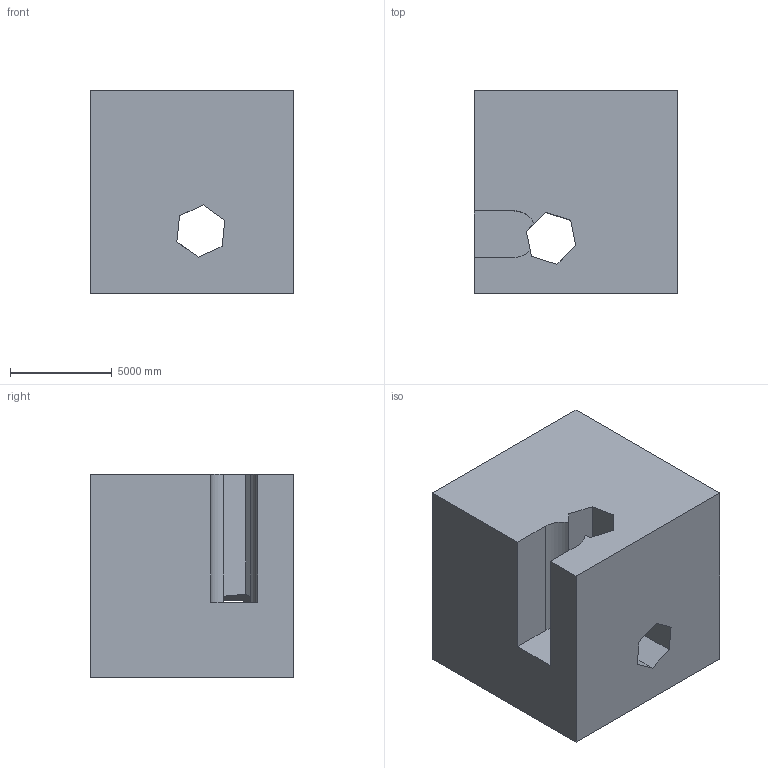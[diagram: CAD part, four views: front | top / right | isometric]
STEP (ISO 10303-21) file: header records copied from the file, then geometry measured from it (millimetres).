
FILE_DESCRIPTION (( 'STEP AP203' ), '1' );
FILE_NAME ('90.STEP', '2022-08-31T11:30:23', ( 'user' ), ( '' ), 'SwSTEP 2.0', 'SolidWorks 2021', '' );
FILE_SCHEMA (( 'CONFIG_CONTROL_DESIGN' ));
Length unit declared in the file: centimetre
Products named in the file (1): 90
Bounding box: 10000 x 10000 x 10000 mm (x, y, z)
Volume: 850707491864.4 mm3; surface area: 759920038.9 mm2
Topology: 1 solids, 1 shells, 33 faces, 105 edges, 70 vertices
Faces by surface type: plane 30, cylinder 3
Entity records: 1238 total; most frequent: ORIENTED_EDGE 210, CARTESIAN_POINT 209, DIRECTION 179, EDGE_CURVE 105, LINE 99, VECTOR 99, VERTEX_POINT 70, AXIS2_PLACEMENT_3D 40
